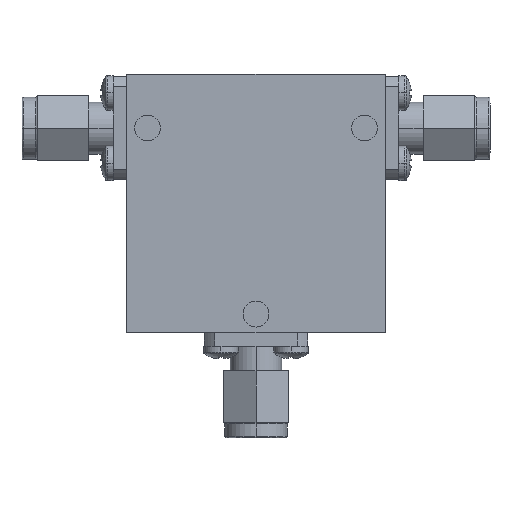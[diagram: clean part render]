
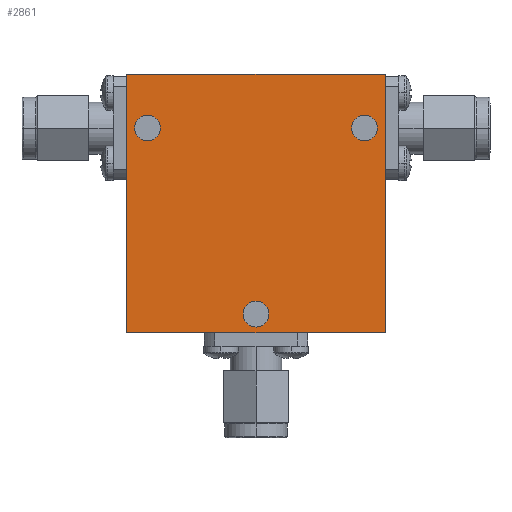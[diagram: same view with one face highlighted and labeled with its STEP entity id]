
A CAD part, top view. The second image highlights one B-rep face of the part: STEP entity #2861.
In plain terms, the highlighted planar face has unit normal (0, 0, 1) as drawn and (0, 0, -1) by its records, which use the part's own axes.
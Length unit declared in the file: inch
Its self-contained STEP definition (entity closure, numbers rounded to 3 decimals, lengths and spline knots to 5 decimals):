
#18 = CARTESIAN_POINT ( 'NONE',  ( -0.0625, -0.535, -0.365 ) ) ;
#25 = VERTEX_POINT ( 'NONE', #332 ) ;
#55 = CIRCLE ( 'NONE', #1376, 0.0625 ) ;
#58 = EDGE_CURVE ( 'NONE', #1834, #2346, #1604, .T. ) ;
#188 = DIRECTION ( 'NONE',  ( 0., 0., 1. ) ) ;
#230 = EDGE_CURVE ( 'NONE', #901, #1146, #1122, .T. ) ;
#309 = AXIS2_PLACEMENT_3D ( 'NONE', #2976, #1680, #1955 ) ;
#313 = ORIENTED_EDGE ( 'NONE', *, *, #58, .T. ) ;
#332 = CARTESIAN_POINT ( 'NONE',  ( -0.625, 0.625, -0.365 ) ) ;
#394 = LINE ( 'NONE', #2960, #846 ) ;
#398 = DIRECTION ( 'NONE',  ( 0., 0., 1. ) ) ;
#401 = LINE ( 'NONE', #2605, #3017 ) ;
#425 = AXIS2_PLACEMENT_3D ( 'NONE', #3225, #2206, #1670 ) ;
#432 = CARTESIAN_POINT ( 'NONE',  ( -0.625, -0.625, -0.365 ) ) ;
#440 = VERTEX_POINT ( 'NONE', #2683 ) ;
#485 = VECTOR ( 'NONE', #3007, 39.37008 ) ;
#602 = FACE_OUTER_BOUND ( 'NONE', #1580, .T. ) ;
#608 = DIRECTION ( 'NONE',  ( 0., 0., 1. ) ) ;
#706 = DIRECTION ( 'NONE',  ( 1., 0., 0. ) ) ;
#718 = LINE ( 'NONE', #2037, #2019 ) ;
#739 = CARTESIAN_POINT ( 'NONE',  ( 0.625, 0.625, -0.365 ) ) ;
#744 = DIRECTION ( 'NONE',  ( 0., 0., 1. ) ) ;
#758 = AXIS2_PLACEMENT_3D ( 'NONE', #1640, #608, #1101 ) ;
#846 = VECTOR ( 'NONE', #1193, 39.37008 ) ;
#901 = VERTEX_POINT ( 'NONE', #2907 ) ;
#911 = ORIENTED_EDGE ( 'NONE', *, *, #974, .F. ) ;
#974 = EDGE_CURVE ( 'NONE', #25, #1260, #394, .T. ) ;
#984 = CARTESIAN_POINT ( 'NONE',  ( 0.525, 0.365, -0.365 ) ) ;
#1018 = EDGE_CURVE ( 'NONE', #1146, #901, #1316, .T. ) ;
#1038 = CARTESIAN_POINT ( 'NONE',  ( -0.4625, 0.365, -0.365 ) ) ;
#1101 = DIRECTION ( 'NONE',  ( 1., 0., 0. ) ) ;
#1122 = CIRCLE ( 'NONE', #1410, 0.0625 ) ;
#1146 = VERTEX_POINT ( 'NONE', #1038 ) ;
#1174 = CARTESIAN_POINT ( 'NONE',  ( -0.525, 0.365, -0.365 ) ) ;
#1193 = DIRECTION ( 'NONE',  ( 0., -1., 0. ) ) ;
#1207 = CIRCLE ( 'NONE', #425, 0.0625 ) ;
#1216 = EDGE_CURVE ( 'NONE', #2964, #2370, #718, .T. ) ;
#1260 = VERTEX_POINT ( 'NONE', #2044 ) ;
#1316 = CIRCLE ( 'NONE', #2165, 0.0625 ) ;
#1341 = ORIENTED_EDGE ( 'NONE', *, *, #2934, .F. ) ;
#1376 = AXIS2_PLACEMENT_3D ( 'NONE', #984, #744, #2250 ) ;
#1410 = AXIS2_PLACEMENT_3D ( 'NONE', #1744, #188, #706 ) ;
#1421 = DIRECTION ( 'NONE',  ( 1., 0., 0. ) ) ;
#1550 = EDGE_CURVE ( 'NONE', #2346, #1834, #55, .T. ) ;
#1580 = EDGE_LOOP ( 'NONE', ( #2587, #1341, #911, #2408 ) ) ;
#1583 = DIRECTION ( 'NONE',  ( -1., 0., 0. ) ) ;
#1604 = CIRCLE ( 'NONE', #309, 0.0625 ) ;
#1640 = CARTESIAN_POINT ( 'NONE',  ( 0., -0.535, -0.365 ) ) ;
#1670 = DIRECTION ( 'NONE',  ( 1., 0., 0. ) ) ;
#1680 = DIRECTION ( 'NONE',  ( 0., 0., 1. ) ) ;
#1697 = DIRECTION ( 'NONE',  ( 1., 0., 0. ) ) ;
#1736 = CARTESIAN_POINT ( 'NONE',  ( 0.4625, 0.365, -0.365 ) ) ;
#1738 = VERTEX_POINT ( 'NONE', #18 ) ;
#1744 = CARTESIAN_POINT ( 'NONE',  ( -0.525, 0.365, -0.365 ) ) ;
#1751 = EDGE_LOOP ( 'NONE', ( #313, #2954 ) ) ;
#1834 = VERTEX_POINT ( 'NONE', #2618 ) ;
#1869 = FACE_BOUND ( 'NONE', #1751, .T. ) ;
#1917 = CARTESIAN_POINT ( 'NONE',  ( 0., 0., -0.365 ) ) ;
#1955 = DIRECTION ( 'NONE',  ( 1., 0., 0. ) ) ;
#2019 = VECTOR ( 'NONE', #2301, 39.37008 ) ;
#2037 = CARTESIAN_POINT ( 'NONE',  ( 0.625, 0.625, -0.365 ) ) ;
#2044 = CARTESIAN_POINT ( 'NONE',  ( -0.625, -0.625, -0.365 ) ) ;
#2061 = EDGE_LOOP ( 'NONE', ( #3287, #2926 ) ) ;
#2065 = LINE ( 'NONE', #432, #485 ) ;
#2116 = EDGE_CURVE ( 'NONE', #1738, #440, #1207, .T. ) ;
#2145 = FACE_BOUND ( 'NONE', #3009, .T. ) ;
#2165 = AXIS2_PLACEMENT_3D ( 'NONE', #1174, #2211, #1697 ) ;
#2205 = CARTESIAN_POINT ( 'NONE',  ( 0.625, -0.625, -0.365 ) ) ;
#2206 = DIRECTION ( 'NONE',  ( 0., 0., 1. ) ) ;
#2211 = DIRECTION ( 'NONE',  ( 0., 0., 1. ) ) ;
#2250 = DIRECTION ( 'NONE',  ( 1., 0., 0. ) ) ;
#2301 = DIRECTION ( 'NONE',  ( 0., 1., 0. ) ) ;
#2346 = VERTEX_POINT ( 'NONE', #1736 ) ;
#2370 = VERTEX_POINT ( 'NONE', #739 ) ;
#2408 = ORIENTED_EDGE ( 'NONE', *, *, #2554, .F. ) ;
#2554 = EDGE_CURVE ( 'NONE', #2370, #25, #401, .T. ) ;
#2557 = CIRCLE ( 'NONE', #758, 0.0625 ) ;
#2587 = ORIENTED_EDGE ( 'NONE', *, *, #1216, .F. ) ;
#2605 = CARTESIAN_POINT ( 'NONE',  ( -0.625, 0.625, -0.365 ) ) ;
#2618 = CARTESIAN_POINT ( 'NONE',  ( 0.5875, 0.365, -0.365 ) ) ;
#2683 = CARTESIAN_POINT ( 'NONE',  ( 0.0625, -0.535, -0.365 ) ) ;
#2687 = EDGE_CURVE ( 'NONE', #440, #1738, #2557, .T. ) ;
#2770 = AXIS2_PLACEMENT_3D ( 'NONE', #1917, #398, #1421 ) ;
#2777 = ORIENTED_EDGE ( 'NONE', *, *, #230, .T. ) ;
#2861 = ADVANCED_FACE ( 'NONE', ( #1869, #3213, #2145, #602 ), #3239, .F. ) ;
#2907 = CARTESIAN_POINT ( 'NONE',  ( -0.5875, 0.365, -0.365 ) ) ;
#2926 = ORIENTED_EDGE ( 'NONE', *, *, #2116, .T. ) ;
#2934 = EDGE_CURVE ( 'NONE', #1260, #2964, #2065, .T. ) ;
#2954 = ORIENTED_EDGE ( 'NONE', *, *, #1550, .T. ) ;
#2960 = CARTESIAN_POINT ( 'NONE',  ( -0.625, 0.625, -0.365 ) ) ;
#2964 = VERTEX_POINT ( 'NONE', #2205 ) ;
#2976 = CARTESIAN_POINT ( 'NONE',  ( 0.525, 0.365, -0.365 ) ) ;
#3007 = DIRECTION ( 'NONE',  ( 1., 0., 0. ) ) ;
#3009 = EDGE_LOOP ( 'NONE', ( #3087, #2777 ) ) ;
#3017 = VECTOR ( 'NONE', #1583, 39.37008 ) ;
#3087 = ORIENTED_EDGE ( 'NONE', *, *, #1018, .T. ) ;
#3213 = FACE_BOUND ( 'NONE', #2061, .T. ) ;
#3225 = CARTESIAN_POINT ( 'NONE',  ( 0., -0.535, -0.365 ) ) ;
#3239 = PLANE ( 'NONE',  #2770 ) ;
#3287 = ORIENTED_EDGE ( 'NONE', *, *, #2687, .T. ) ;
